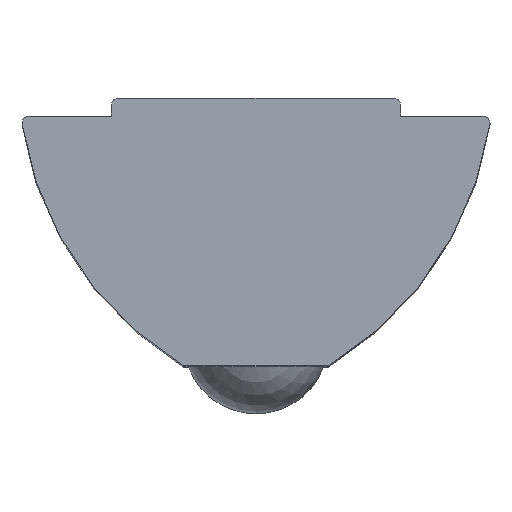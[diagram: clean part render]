
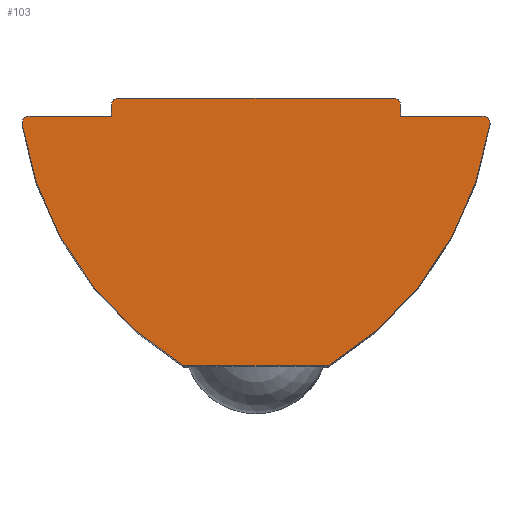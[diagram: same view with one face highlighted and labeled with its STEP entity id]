
A CAD part, top view. The second image highlights one B-rep face of the part: STEP entity #103.
In plain terms, the highlighted planar face has unit normal (0, 0, 1).
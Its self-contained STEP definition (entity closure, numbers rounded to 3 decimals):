
#1 = DIRECTION ( 'NONE',  ( -1., 0., 0. ) ) ;
#5 = CARTESIAN_POINT ( 'NONE',  ( -6.269, 6.9, 11. ) ) ;
#18 = VECTOR ( 'NONE', #143, 1000. ) ;
#19 = VERTEX_POINT ( 'NONE', #290 ) ;
#20 = DIRECTION ( 'NONE',  ( 1., 0., 0. ) ) ;
#21 = DIRECTION ( 'NONE',  ( 0., 0., 1. ) ) ;
#27 = CARTESIAN_POINT ( 'NONE',  ( 6.269, 6.7, 11. ) ) ;
#29 = ORIENTED_EDGE ( 'NONE', *, *, #182, .T. ) ;
#69 = CARTESIAN_POINT ( 'NONE',  ( 0., 6.9, 11. ) ) ;
#72 = CARTESIAN_POINT ( 'NONE',  ( 6.467, 6.669, 11. ) ) ;
#74 = CARTESIAN_POINT ( 'NONE',  ( -4., 6.9, 11. ) ) ;
#81 = ORIENTED_EDGE ( 'NONE', *, *, #449, .T. ) ;
#83 = VERTEX_POINT ( 'NONE', #721 ) ;
#85 = LINE ( 'NONE', #201, #333 ) ;
#90 = ORIENTED_EDGE ( 'NONE', *, *, #657, .T. ) ;
#103 = ADVANCED_FACE ( 'NONE', ( #616 ), #583, .T. ) ;
#110 = EDGE_CURVE ( 'NONE', #837, #118, #510, .T. ) ;
#118 = VERTEX_POINT ( 'NONE', #465 ) ;
#120 = EDGE_CURVE ( 'NONE', #438, #685, #409, .T. ) ;
#143 = DIRECTION ( 'NONE',  ( 1., 0., 0. ) ) ;
#158 = DIRECTION ( 'NONE',  ( -1., 0., 0. ) ) ;
#163 = VERTEX_POINT ( 'NONE', #841 ) ;
#170 = DIRECTION ( 'NONE',  ( 0., 1., 0. ) ) ;
#171 = CARTESIAN_POINT ( 'NONE',  ( 0., 6.9, 11. ) ) ;
#180 = CARTESIAN_POINT ( 'NONE',  ( -4., 0., 11. ) ) ;
#182 = EDGE_CURVE ( 'NONE', #238, #83, #805, .T. ) ;
#193 = EDGE_CURVE ( 'NONE', #163, #238, #483, .T. ) ;
#201 = CARTESIAN_POINT ( 'NONE',  ( 0., 7.4, 11. ) ) ;
#203 = AXIS2_PLACEMENT_3D ( 'NONE', #27, #21, #20 ) ;
#215 = DIRECTION ( 'NONE',  ( 0., 0., -1. ) ) ;
#223 = DIRECTION ( 'NONE',  ( 1., 0., 0. ) ) ;
#224 = DIRECTION ( 'NONE',  ( 1., 0., 0. ) ) ;
#228 = DIRECTION ( 'NONE',  ( 0., 0., 1. ) ) ;
#232 = CARTESIAN_POINT ( 'NONE',  ( -3.8, 7.2, 11. ) ) ;
#238 = VERTEX_POINT ( 'NONE', #617 ) ;
#243 = ORIENTED_EDGE ( 'NONE', *, *, #371, .T. ) ;
#254 = ORIENTED_EDGE ( 'NONE', *, *, #120, .F. ) ;
#259 = AXIS2_PLACEMENT_3D ( 'NONE', #826, #820, #810 ) ;
#263 = CIRCLE ( 'NONE', #203, 0.2 ) ;
#268 = CARTESIAN_POINT ( 'NONE',  ( -2.921, 8.126, 11. ) ) ;
#284 = CARTESIAN_POINT ( 'NONE',  ( -6.469, 6.7, 11. ) ) ;
#286 = DIRECTION ( 'NONE',  ( 1., 0., 0. ) ) ;
#290 = CARTESIAN_POINT ( 'NONE',  ( 6.269, 6.9, 11. ) ) ;
#314 = EDGE_LOOP ( 'NONE', ( #479, #496, #692, #751, #90, #254, #81, #422, #736, #29, #786, #243, #334 ) ) ;
#333 = VECTOR ( 'NONE', #158, 1000. ) ;
#334 = ORIENTED_EDGE ( 'NONE', *, *, #386, .F. ) ;
#347 = CARTESIAN_POINT ( 'NONE',  ( -6.269, 6.7, 11. ) ) ;
#350 = AXIS2_PLACEMENT_3D ( 'NONE', #560, #734, #664 ) ;
#356 = VECTOR ( 'NONE', #224, 1000. ) ;
#371 = EDGE_CURVE ( 'NONE', #501, #521, #563, .T. ) ;
#383 = CARTESIAN_POINT ( 'NONE',  ( -3.8, 7.4, 11. ) ) ;
#386 = EDGE_CURVE ( 'NONE', #443, #521, #398, .T. ) ;
#398 = LINE ( 'NONE', #180, #620 ) ;
#408 = EDGE_CURVE ( 'NONE', #596, #443, #694, .T. ) ;
#409 = CIRCLE ( 'NONE', #708, 9.5 ) ;
#415 = EDGE_CURVE ( 'NONE', #83, #501, #85, .T. ) ;
#422 = ORIENTED_EDGE ( 'NONE', *, *, #487, .T. ) ;
#424 = DIRECTION ( 'NONE',  ( 0., 0., 1. ) ) ;
#430 = CARTESIAN_POINT ( 'NONE',  ( -6.269, 6.7, 11. ) ) ;
#433 = AXIS2_PLACEMENT_3D ( 'NONE', #430, #424, #729 ) ;
#434 = AXIS2_PLACEMENT_3D ( 'NONE', #347, #705, #828 ) ;
#438 = VERTEX_POINT ( 'NONE', #72 ) ;
#443 = VERTEX_POINT ( 'NONE', #74 ) ;
#449 = EDGE_CURVE ( 'NONE', #438, #19, #263, .T. ) ;
#465 = CARTESIAN_POINT ( 'NONE',  ( -6.467, 6.669, 11. ) ) ;
#479 = ORIENTED_EDGE ( 'NONE', *, *, #408, .F. ) ;
#483 = LINE ( 'NONE', #773, #835 ) ;
#487 = EDGE_CURVE ( 'NONE', #19, #163, #748, .T. ) ;
#488 = CIRCLE ( 'NONE', #434, 0.2 ) ;
#493 = VECTOR ( 'NONE', #1, 1000. ) ;
#496 = ORIENTED_EDGE ( 'NONE', *, *, #777, .T. ) ;
#501 = VERTEX_POINT ( 'NONE', #383 ) ;
#510 = CIRCLE ( 'NONE', #433, 0.2 ) ;
#521 = VERTEX_POINT ( 'NONE', #579 ) ;
#523 = CARTESIAN_POINT ( 'NONE',  ( 0., 0., 11. ) ) ;
#529 = DIRECTION ( 'NONE',  ( 0., 0., 1. ) ) ;
#535 = AXIS2_PLACEMENT_3D ( 'NONE', #523, #529, #658 ) ;
#560 = CARTESIAN_POINT ( 'NONE',  ( 2.921, 8.126, 11. ) ) ;
#563 = CIRCLE ( 'NONE', #648, 0.2 ) ;
#579 = CARTESIAN_POINT ( 'NONE',  ( -4., 7.2, 11. ) ) ;
#583 = PLANE ( 'NONE',  #535 ) ;
#596 = VERTEX_POINT ( 'NONE', #5 ) ;
#613 = CARTESIAN_POINT ( 'NONE',  ( 2., 0., 11. ) ) ;
#616 = FACE_OUTER_BOUND ( 'NONE', #314, .T. ) ;
#617 = CARTESIAN_POINT ( 'NONE',  ( 4., 7.2, 11. ) ) ;
#620 = VECTOR ( 'NONE', #170, 1000. ) ;
#627 = VERTEX_POINT ( 'NONE', #667 ) ;
#638 = EDGE_CURVE ( 'NONE', #118, #627, #795, .T. ) ;
#648 = AXIS2_PLACEMENT_3D ( 'NONE', #232, #228, #223 ) ;
#657 = EDGE_CURVE ( 'NONE', #627, #685, #759, .T. ) ;
#658 = DIRECTION ( 'NONE',  ( 1., 0., 0. ) ) ;
#664 = DIRECTION ( 'NONE',  ( 1., 0., 0. ) ) ;
#667 = CARTESIAN_POINT ( 'NONE',  ( -2., 0., 11. ) ) ;
#685 = VERTEX_POINT ( 'NONE', #613 ) ;
#692 = ORIENTED_EDGE ( 'NONE', *, *, #110, .T. ) ;
#694 = LINE ( 'NONE', #171, #18 ) ;
#705 = DIRECTION ( 'NONE',  ( 0., 0., 1. ) ) ;
#708 = AXIS2_PLACEMENT_3D ( 'NONE', #268, #215, #286 ) ;
#721 = CARTESIAN_POINT ( 'NONE',  ( 3.8, 7.4, 11. ) ) ;
#728 = CARTESIAN_POINT ( 'NONE',  ( 0., 0., 11. ) ) ;
#729 = DIRECTION ( 'NONE',  ( 1., 0., 0. ) ) ;
#734 = DIRECTION ( 'NONE',  ( 0., 0., 1. ) ) ;
#736 = ORIENTED_EDGE ( 'NONE', *, *, #193, .T. ) ;
#748 = LINE ( 'NONE', #69, #493 ) ;
#751 = ORIENTED_EDGE ( 'NONE', *, *, #638, .T. ) ;
#759 = LINE ( 'NONE', #728, #356 ) ;
#773 = CARTESIAN_POINT ( 'NONE',  ( 4., 0., 11. ) ) ;
#774 = DIRECTION ( 'NONE',  ( 0., 1., 0. ) ) ;
#777 = EDGE_CURVE ( 'NONE', #596, #837, #488, .T. ) ;
#786 = ORIENTED_EDGE ( 'NONE', *, *, #415, .T. ) ;
#795 = CIRCLE ( 'NONE', #350, 9.5 ) ;
#805 = CIRCLE ( 'NONE', #259, 0.2 ) ;
#810 = DIRECTION ( 'NONE',  ( 1., 0., 0. ) ) ;
#820 = DIRECTION ( 'NONE',  ( 0., 0., 1. ) ) ;
#826 = CARTESIAN_POINT ( 'NONE',  ( 3.8, 7.2, 11. ) ) ;
#828 = DIRECTION ( 'NONE',  ( 1., 0., 0. ) ) ;
#835 = VECTOR ( 'NONE', #774, 1000. ) ;
#837 = VERTEX_POINT ( 'NONE', #284 ) ;
#841 = CARTESIAN_POINT ( 'NONE',  ( 4., 6.9, 11. ) ) ;
